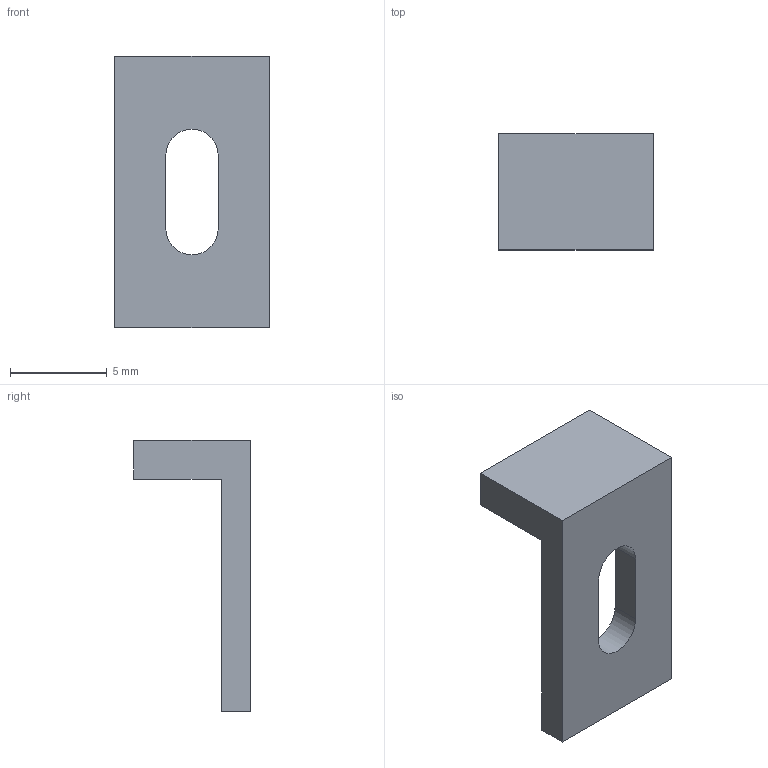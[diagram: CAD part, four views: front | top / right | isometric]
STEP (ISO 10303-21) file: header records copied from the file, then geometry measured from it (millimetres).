
FILE_DESCRIPTION(('Open CASCADE Model'),'2;1');
FILE_NAME('Open CASCADE Shape Model','2026-11-05T02:23:55',('Author'),( 'Open CASCADE'),'Open CASCADE STEP processor 7.8','Open CASCADE 7.8' ,'Unknown');
FILE_SCHEMA(('AUTOMOTIVE_DESIGN { 1 0 10303 214 1 1 1 1 }'));
Length unit declared in the file: millimetre
Products named in the file (1): Open CASCADE STEP translator 7.8 20
Bounding box: 8 x 6 x 14 mm (x, y, z)
Volume: 216 mm3; surface area: 372.2 mm2
Topology: 1 solids, 1 shells, 12 faces, 30 edges, 20 vertices
Faces by surface type: plane 10, cylinder 2
Entity records: 762 total; most frequent: CARTESIAN_POINT 123, DIRECTION 120, LINE 82, VECTOR 82, ORIENTED_EDGE 60, PCURVE 60, DEFINITIONAL_REPRESENTATION 60, EDGE_CURVE 30
